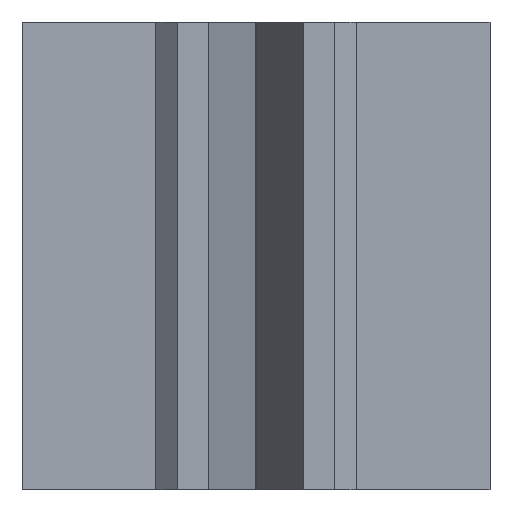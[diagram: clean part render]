
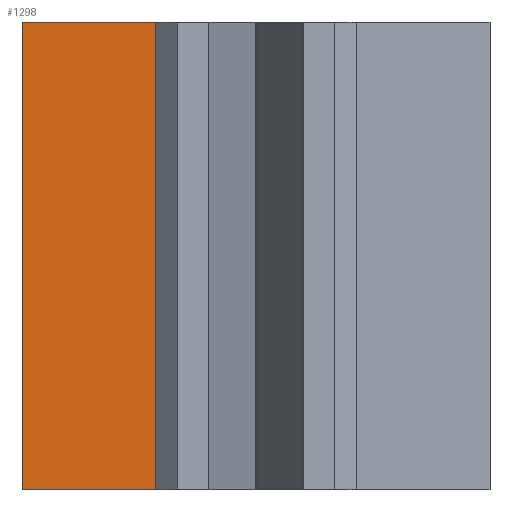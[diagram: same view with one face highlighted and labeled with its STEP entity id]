
A CAD part, front view. The second image highlights one B-rep face of the part: STEP entity #1298.
In plain terms, the highlighted planar face has unit normal (0, -1, 0).
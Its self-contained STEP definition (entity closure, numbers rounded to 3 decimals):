
#72=FACE_OUTER_BOUND('',#142,.T.);
#142=EDGE_LOOP('',(#1066,#1067,#1068,#1069));
#272=LINE('',#1945,#452);
#303=LINE('',#2007,#483);
#304=LINE('',#2009,#484);
#305=LINE('',#2010,#485);
#452=VECTOR('',#1593,10.);
#483=VECTOR('',#1642,10.);
#484=VECTOR('',#1645,10.);
#485=VECTOR('',#1646,10.);
#594=VERTEX_POINT('',#1942);
#595=VERTEX_POINT('',#1944);
#616=VERTEX_POINT('',#2003);
#617=VERTEX_POINT('',#2005);
#752=EDGE_CURVE('',#595,#594,#272,.T.);
#783=EDGE_CURVE('',#616,#617,#303,.T.);
#784=EDGE_CURVE('',#616,#594,#304,.T.);
#785=EDGE_CURVE('',#617,#595,#305,.T.);
#1066=ORIENTED_EDGE('',*,*,#784,.F.);
#1067=ORIENTED_EDGE('',*,*,#783,.T.);
#1068=ORIENTED_EDGE('',*,*,#785,.T.);
#1069=ORIENTED_EDGE('',*,*,#752,.T.);
#1230=PLANE('',#1371);
#1298=ADVANCED_FACE('',(#72),#1230,.T.);
#1371=AXIS2_PLACEMENT_3D('',#2008,#1643,#1644);
#1593=DIRECTION('',(0.,0.,-1.));
#1642=DIRECTION('',(0.,0.,1.));
#1643=DIRECTION('center_axis',(0.,-1.,0.));
#1644=DIRECTION('ref_axis',(1.,0.,0.));
#1645=DIRECTION('',(-1.,0.,0.));
#1646=DIRECTION('',(-1.,0.,0.));
#1942=CARTESIAN_POINT('',(-5.,0.,0.));
#1944=CARTESIAN_POINT('',(-5.,0.,10.));
#1945=CARTESIAN_POINT('',(-5.,0.,2.5));
#2003=CARTESIAN_POINT('',(-2.05,0.,0.));
#2005=CARTESIAN_POINT('',(-2.05,0.,10.));
#2007=CARTESIAN_POINT('',(-2.05,0.,0.));
#2008=CARTESIAN_POINT('Origin',(-2.25,0.,0.));
#2009=CARTESIAN_POINT('',(-2.25,0.,0.));
#2010=CARTESIAN_POINT('',(-2.25,0.,10.));
